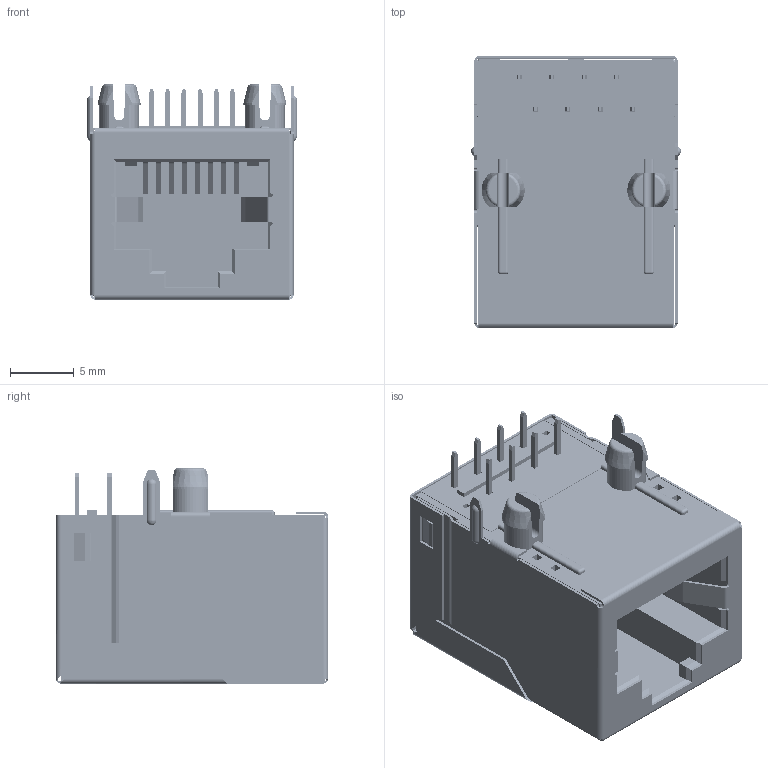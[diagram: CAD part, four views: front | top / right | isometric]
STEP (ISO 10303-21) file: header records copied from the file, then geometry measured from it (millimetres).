
FILE_DESCRIPTION((''),'2;1');
FILE_NAME('DGKYD211B002GWA4D','2022-10-13T14:45:31',('Administrator'),(''),'CREO PARAMETRIC BY PTC INC, 2019010','CREO PARAMETRIC BY PTC INC, 2019010','');
FILE_SCHEMA(('CONFIG_CONTROL_DESIGN'));
Products named in the file (1): DGKYD211B002GWA4D
Bounding box: 16.45 x 21.35 x 16.9 mm (x, y, z)
Volume: 2084.9 mm3; surface area: 7555.7 mm2
Topology: 21 solids, 21 shells, 5796 faces, 15308 edges, 9406 vertices
Faces by surface type: torus 3764, cylinder 1039, plane 977, sphere 12, cone 4
Entity records: 185470 total; most frequent: DIRECTION 37876, CARTESIAN_POINT 32728, ORIENTED_EDGE 30600, AXIS2_PLACEMENT_3D 17170, EDGE_CURVE 15300, CIRCLE 11374, VERTEX_POINT 9406, EDGE_LOOP 5938
